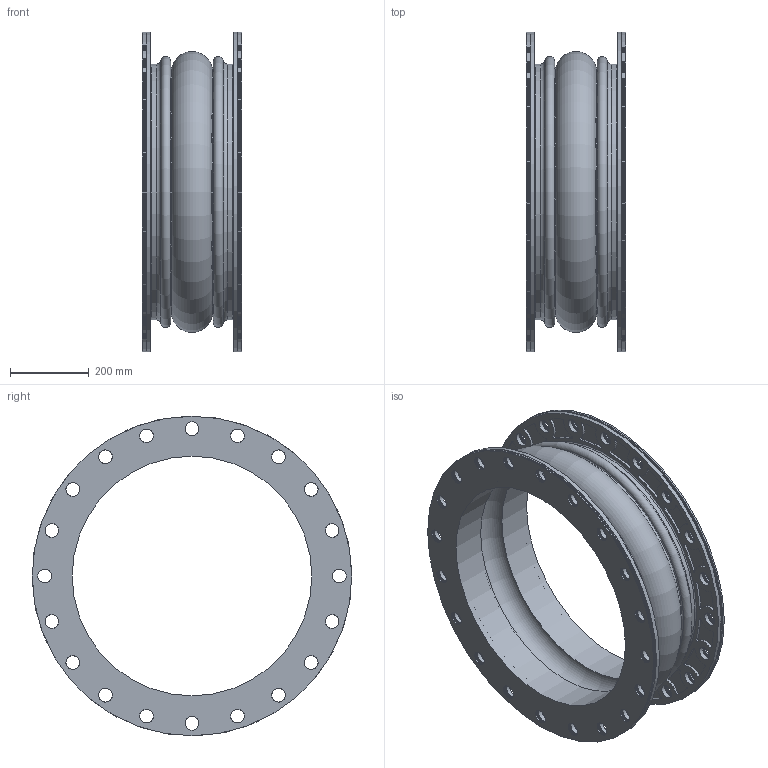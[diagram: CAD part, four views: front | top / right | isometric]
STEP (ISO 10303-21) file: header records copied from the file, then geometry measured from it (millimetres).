
FILE_DESCRIPTION((''),'2;1');
FILE_NAME('N:\StockJoints-ADSK, IGES, STEP, PNG\STEP\451 24x10.stp','2013-05-23T13:55:31',('mquog'),(''),'Autodesk Inventor 2011','Autodesk Inventor 2011','');
FILE_SCHEMA(('AUTOMOTIVE_DESIGN { 1 0 10303 214 1 1 1 1 }'));
Length unit declared in the file: inch
Products named in the file (3): 451 24x10; Style451 24x10; 24DI450BUR150
Assembly tree (3 placements, depth 2):
  451 24x10
    Style451 24x10
    24DI450BUR150  x2
Bounding box: 254 x 812.84 x 812.84 mm (x, y, z)
Volume: 17702757.5 mm3; surface area: 15384029 mm2
Topology: 14 solids, 14 shells, 986 faces, 2658 edges, 1754 vertices
Faces by surface type: cylinder 772, plane 158, torus 52, cone 4
Full cylindrical faces by diameter (mm): 34.925 x320, 609.6 x2, 615.95 x4, 622.3 x8, 624.332 x4, 626.364 x4, 628.396 x4, 630.428 x4, 633.603 x2, 641.35 x2, 809.625 x14, 812.8 x2, 812.843 x2
Entity records: 21692 total; most frequent: DIRECTION 3998, CARTESIAN_POINT 3378, ORIENTED_EDGE 2912, AXIS2_PLACEMENT_3D 1838, EDGE_LOOP 1752, EDGE_CURVE 1456, VERTEX_POINT 1216, CIRCLE 1136
